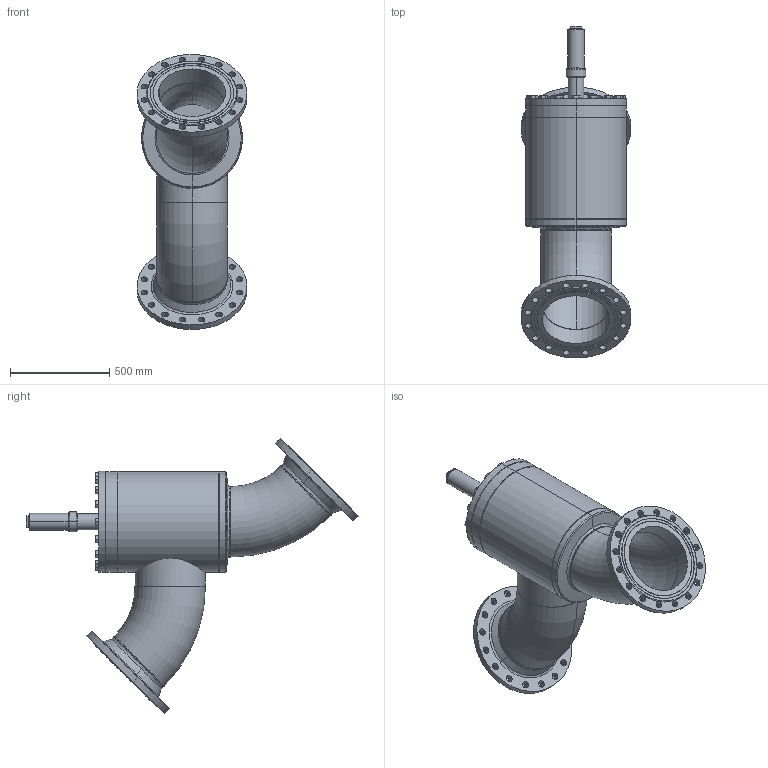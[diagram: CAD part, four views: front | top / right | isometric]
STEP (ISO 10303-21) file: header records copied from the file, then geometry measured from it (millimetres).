
FILE_DESCRIPTION (( 'STEP AP214' ), '1' );
FILE_NAME ('AVR26320C26-DN350_DIN-FL-N_PS25.STEP', '2006-04-28T08:31:38', ( 'Herr Grams' ), ( 'AWP GmbH' ), 'SwSTEP 2.0', 'SolidWorks 2002296', '' );
FILE_SCHEMA (( 'AUTOMOTIVE_DESIGN' ));
Length unit declared in the file: millimetre
Products named in the file (22): AVR26320C26-DN350_DIN-FL-N_PS25; AVR26300B26_Deck+Schr-DN350_Standard; Deckel-kpl26300-DN350_Standard; Buchse1 f Deckel26300-DN350_Standard; Scheibe f Deckel26300-DN350_Standard; bead-deck263-350_Standard; Sechskantschraube-DIN933_M24x 65; Gehäuse-kpl26320-DN350_DIN_PS25_Standard; bead-DN350-6_Standard; bead-DN350-7_Standard; Flansch-DIN2634-Nut_PS25_DIN-Flansch-DN350_PS25-Nut; Gehäuse-kpl26300-DN350_R1_Standard; Boden26300-DN350_Standard; Gehäuse26300-DN350_Standard; Kopfstück26300-DN350_Standard; Rohrstutzen-A26300-DN350_R1_Standard; Rohrbogen 45°_Rohrbogen-DN350-45°; bead-DN350-3_Standard; bead-DN350-2_Standard; bead-DN350-1_Standard; bead-DN350-4_Standard; Kappe16402_DN200-350_Standard
Assembly tree (40 placements, depth 4):
  AVR26320C26-DN350_DIN-FL-N_PS25
    Gehäuse-kpl26320-DN350_DIN_PS25_Standard
      Flansch-DIN2634-Nut_PS25_DIN-Flansch-DN350_PS25-Nut  x2
      bead-DN350-6_Standard
      Gehäuse-kpl26300-DN350_R1_Standard
        bead-DN350-4_Standard  x2
        bead-DN350-1_Standard  x2
        Boden26300-DN350_Standard
        Rohrbogen 45°_Rohrbogen-DN350-45°  x2
        Kopfstück26300-DN350_Standard
        Rohrstutzen-A26300-DN350_R1_Standard
        Gehäuse26300-DN350_Standard
        bead-DN350-2_Standard
        bead-DN350-3_Standard
      bead-DN350-7_Standard
    AVR26300B26_Deck+Schr-DN350_Standard
      Sechskantschraube-DIN933_M24x 65  x16
      Deckel-kpl26300-DN350_Standard
        Scheibe f Deckel26300-DN350_Standard
        bead-deck263-350_Standard
        Buchse1 f Deckel26300-DN350_Standard
    Kappe16402_DN200-350_Standard
Bounding box: 554.87 x 1675.65 x 1388.53 mm (x, y, z)
Volume: 57028529.6 mm3; surface area: 7044885.9 mm2
Topology: 36 solids, 36 shells, 753 faces, 1748 edges, 1068 vertices
Faces by surface type: cone 256, cylinder 219, plane 210, bspline 44, torus 24
Entity records: 24219 total; most frequent: CARTESIAN_POINT 15888, DIRECTION 1612, ORIENTED_EDGE 1484, EDGE_CURVE 742, AXIS2_PLACEMENT_3D 709, VERTEX_POINT 470, EDGE_LOOP 398, CIRCLE 394
